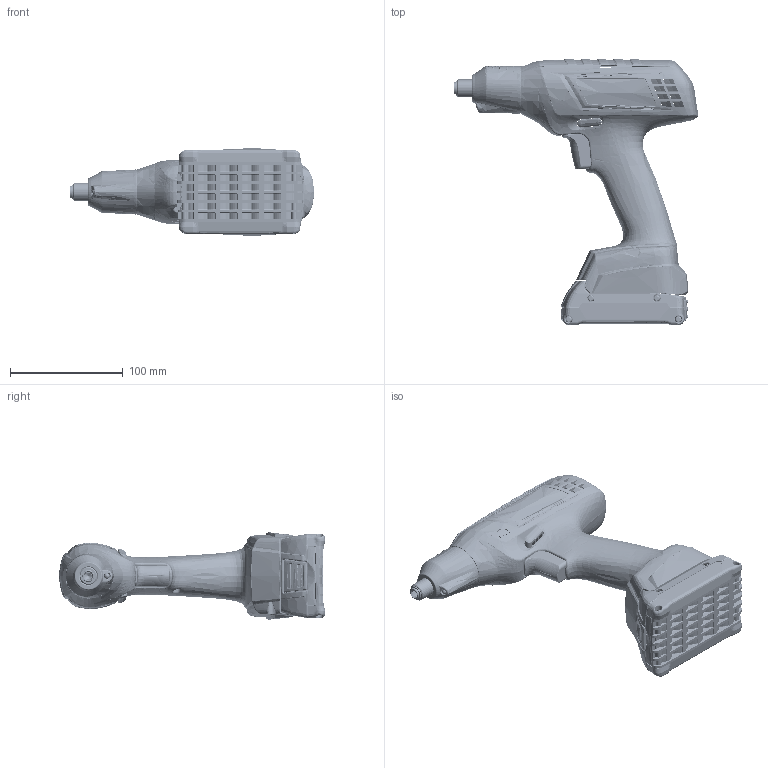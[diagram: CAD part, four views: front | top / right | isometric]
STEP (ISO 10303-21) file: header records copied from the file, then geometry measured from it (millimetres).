
FILE_DESCRIPTION((''),'2;1');
FILE_NAME('3602D94400_ASM','2013-06-20T',('lem2mt'),(''),'PRO/ENGINEER BY PARAMETRIC TECHNOLOGY CORPORATION, 2011490','PRO/ENGINEER BY PARAMETRIC TECHNOLOGY CORPORATION, 2011490','');
FILE_SCHEMA(('AUTOMOTIVE_DESIGN_CC2 { 1 2 10303 214 -1 1 5 2 }'));
Products named in the file (32): 3602D94400_SKEL01; 3605105046_100; 3605105046_200; 3602D94400_10_ASM; 2607336905_DUMMY; 3602D94400_70_ASM; 3604460132; 3603124023-1; 3600224006; 3600499003; 3607031535_ASM; 3602D94400_80_24; 3602D94400_80_25; 3602D94400_80_28; 3602D94400_80_26; 3602D94400_80_23_ASM; 3602D94400_80_ASM; 1607502625_SKEL0001; 1607502625_01; 1607502625_02; 1607502625_ASM; 3602D94400_90_ASM; 3602D94400_80_40; 3602D94400_80_29_ASM; 1607502627_SKEL0001; 1607502627_ASM; 1607502626_DUMMY; 3601099004; 3601923030; 3600106006; 2603490018_DUMMY_01; 3602D94400_ASM
Assembly tree (41 placements, depth 4):
  3602D94400_ASM
    3602D94400_SKEL01
    3602D94400_10_ASM
      3605105046_100
      3605105046_200
    3602D94400_70_ASM
      2607336905_DUMMY
    3604460132  x2
    3607031535_ASM
      3603124023-1
      3600224006
      3600499003
    3602D94400_80_ASM
      3602D94400_80_23_ASM
        3602D94400_80_24
        3602D94400_80_25
        3602D94400_80_28
        3602D94400_80_26  x2
    3602D94400_90_ASM
      1607502625_ASM
        1607502625_SKEL0001
        1607502625_01
        1607502625_02
    3602D94400_80_29_ASM
      3602D94400_80_40
    1607502627_ASM
      1607502627_SKEL0001
    1607502626_DUMMY
    3601099004
    3601923030
    3600106006
    2603490018_DUMMY_01  x9
Bounding box: 216.24 x 235.69 x 77.19 mm (x, y, z)
Volume: 329922.4 mm3; surface area: 300036.7 mm2
Topology: 34 solids, 34 shells, 15697 faces, 40568 edges, 24983 vertices
Faces by surface type: plane 5198, bspline 4656, cylinder 3761, cone 747, torus 604, sphere 539, extrusion 190, revolution 2
Entity records: 1158120 total; most frequent: CARTESIAN_POINT 634645, ORIENTED_EDGE 78412, DIRECTION 53783, PRESENTATION_STYLE_ASSIGNMENT 50186, STYLED_ITEM 39387, CURVE_STYLE 39363, EDGE_CURVE 39206, VERTEX_POINT 24188
